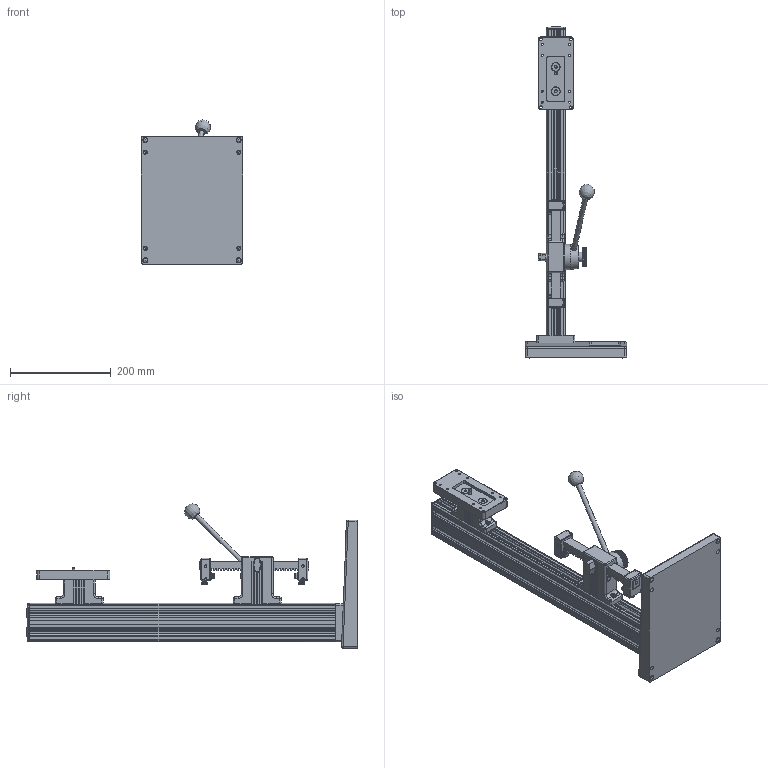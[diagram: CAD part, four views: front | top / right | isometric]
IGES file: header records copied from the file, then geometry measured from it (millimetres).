
Global section: file name: 750; native system: Autodesk RealDWG; preprocessor: Autodesk Translation Framework DWG producer (atf_dwg_producer); organization: unknown; date: 20240621.120227; units: inch
Bounding box: 200.66 x 658.57 x 286.42 mm (x, y, z)
Volume: 3149573.3 mm3; surface area: 556314.8 mm2
Topology: 4 solids, 4 shells, 6371 faces, 15270 edges, 8964 vertices
Faces by surface type: bspline 6371
